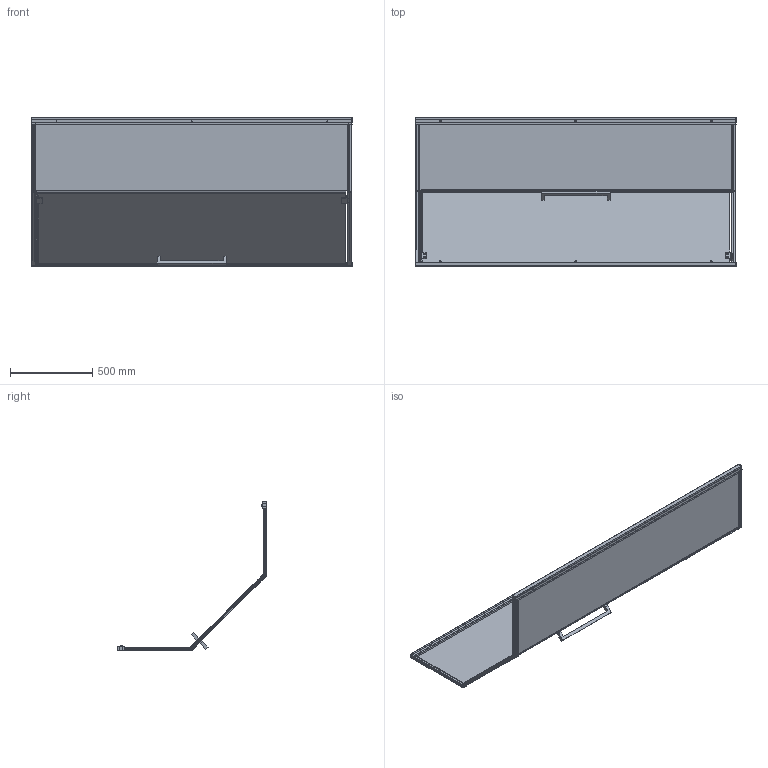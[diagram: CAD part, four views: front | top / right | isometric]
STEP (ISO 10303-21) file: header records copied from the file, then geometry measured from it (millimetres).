
FILE_DESCRIPTION((''),'2;1');
FILE_NAME('D517521-8_ASM','2022-05-26T16:40:24',('Administrator'),(''),'CREO PARAMETRIC BY PTC INC, 2017110','CREO PARAMETRIC BY PTC INC, 2017110','');
FILE_SCHEMA(('CONFIG_CONTROL_DESIGN'));
Products named in the file (38): 517000_3_1; 517000_1_1; 517000_4_1; 0002_3_1; 0003_3_1; 20001_3_1; 0001_ASM_6_ASM_1_ASM; 61700_8_1; 0006_2_1; 000_5_1; 609W101_1_1; 609Z103_2_1; 609W102-2_7_1; BOLT-M4_1_1; ADMI290C15F6YSLS_1_1_1; 0010_7_1; LJCT_M6X14_2_1; 0011_2_1; 609W11A-2_ASM_13_ASM_1_ASM; 517-800_2_1; 0007_ASM_7_ASM_1_ASM; YTJS_M4X12_1_1; 0009_3_1; 1351000_3_1; 1352000_2_1; _-0002_3_1; 617-00_6_1; 617Z202_1_1; PRT0001_1_1; YTZG_ST4X25_1_1; YTZG_ST4X10_1_1; 28Z05-1-_1_1; 28Z05-2-_1_1; 001_ASM_1_ASM_1_ASM; _0002_3_1; 00-D517521-8MM_ASM_102_ASM_1_ASM; D517521-8_ASM_1_ASM; D517521-8_ASM
Assembly tree (60 placements, depth 6):
  D517521-8_ASM
    D517521-8_ASM_1_ASM
      00-D517521-8MM_ASM_102_ASM_1_ASM
        0001_ASM_6_ASM_1_ASM  x2
          517000_3_1
          517000_1_1
          517000_4_1
          0002_3_1
          0003_3_1
          20001_3_1
        61700_8_1  x2
        0006_2_1  x2
        0007_ASM_7_ASM_1_ASM
          000_5_1
          609W11A-2_ASM_13_ASM_1_ASM  x2
            609W101_1_1
            609Z103_2_1
            609W102-2_7_1
            BOLT-M4_1_1
            ADMI290C15F6YSLS_1_1_1
            0010_7_1
            LJCT_M6X14_2_1
            0011_2_1
          517-800_2_1  x2
        YTJS_M4X12_1_1  x4
        0009_3_1
        1351000_3_1
        1352000_2_1
        _-0002_3_1
        617-00_6_1  x2
        617Z202_1_1  x2
        PRT0001_1_1  x2
        YTZG_ST4X25_1_1  x2
        001_ASM_1_ASM_1_ASM  x6
          YTZG_ST4X10_1_1
          28Z05-1-_1_1
          28Z05-2-_1_1
        _0002_3_1
Bounding box: 1953 x 906.73 x 906.73 mm (x, y, z)
Volume: 28643269.7 mm3; surface area: 7640028.3 mm2
Topology: 82 solids, 90 shells, 3010 faces, 7920 edges, 5086 vertices
Faces by surface type: cylinder 1212, plane 1166, bspline 230, sphere 140, cone 130, torus 112, extrusion 20
Entity records: 52586 total; most frequent: CARTESIAN_POINT 23510, ORIENTED_EDGE 6022, DIRECTION 5827, EDGE_CURVE 3011, AXIS2_PLACEMENT_3D 2106, VERTEX_POINT 1980, VECTOR 1615, LINE 1610
